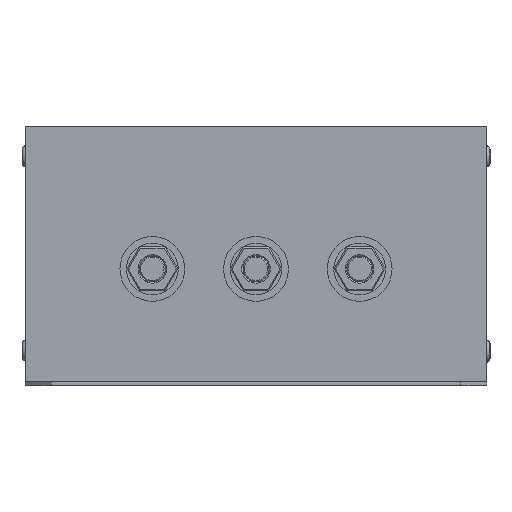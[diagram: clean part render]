
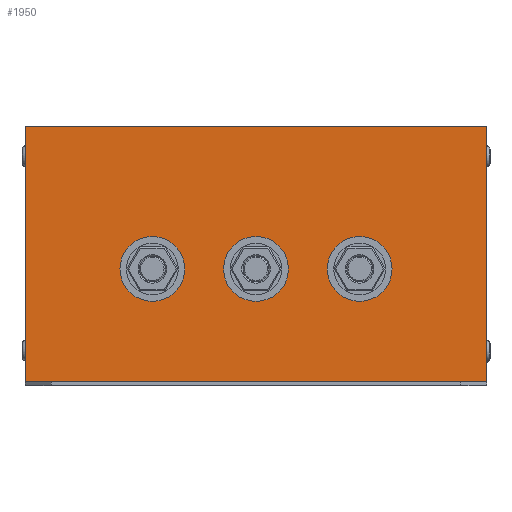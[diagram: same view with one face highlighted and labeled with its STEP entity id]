
A CAD part, left-side view. The second image highlights one B-rep face of the part: STEP entity #1950.
In plain terms, the highlighted planar face has unit normal (-1, 0, 0).
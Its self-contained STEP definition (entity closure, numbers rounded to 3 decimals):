
#1950=ADVANCED_FACE('',(#2462,#2464,#2466,#2468),#2470,.T.);
#2462=FACE_BOUND('',#2463,.T.);
#2463=EDGE_LOOP('',(#3111,#3112,#3113,#3114));
#2464=FACE_BOUND('',#2465,.T.);
#2465=EDGE_LOOP('',(#3115));
#2466=FACE_BOUND('',#2467,.T.);
#2467=EDGE_LOOP('',(#3116));
#2468=FACE_BOUND('',#2469,.T.);
#2469=EDGE_LOOP('',(#3117));
#2470=PLANE('',#2471);
#2471=AXIS2_PLACEMENT_3D('',#2472,#2473,#2474);
#2472=CARTESIAN_POINT('',(-177.5,75.5,1.5));
#2473=DIRECTION('',(-1.,0.,0.));
#2474=DIRECTION('',(0.,-1.,0.));
#3111=ORIENTED_EDGE('',*,*,#3377,.T.);
#3112=ORIENTED_EDGE('',*,*,#3337,.T.);
#3113=ORIENTED_EDGE('',*,*,#3334,.F.);
#3114=ORIENTED_EDGE('',*,*,#3330,.F.);
#3115=ORIENTED_EDGE('',*,*,#3388,.F.);
#3116=ORIENTED_EDGE('',*,*,#3389,.F.);
#3117=ORIENTED_EDGE('',*,*,#3390,.F.);
#3330=EDGE_CURVE('',#3519,#3521,#3522,.T.);
#3334=EDGE_CURVE('',#3521,#3525,#3527,.T.);
#3337=EDGE_CURVE('',#3532,#3525,#3533,.T.);
#3377=EDGE_CURVE('',#3519,#3532,#3598,.T.);
#3388=EDGE_CURVE('',#3618,#3618,#3619,.T.);
#3389=EDGE_CURVE('',#3620,#3620,#3621,.T.);
#3390=EDGE_CURVE('',#3622,#3622,#3623,.T.);
#3519=VERTEX_POINT('',#3863);
#3521=VERTEX_POINT('',#3867);
#3522=LINE('',#3868,#3869);
#3525=VERTEX_POINT('',#3877);
#3527=LINE('',#3881,#3882);
#3532=VERTEX_POINT('',#3892);
#3533=LINE('',#3893,#3894);
#3598=LINE('',#4049,#4050);
#3618=VERTEX_POINT('',#4095);
#3619=CIRCLE('',#4096,5.);
#3620=VERTEX_POINT('',#4100);
#3621=CIRCLE('',#4101,5.);
#3622=VERTEX_POINT('',#4105);
#3623=CIRCLE('',#4106,5.);
#3863=CARTESIAN_POINT('',(-177.5,75.5,1.5));
#3867=CARTESIAN_POINT('',(-177.5,75.5,100.));
#3868=CARTESIAN_POINT('',(-177.5,75.5,1.5));
#3869=VECTOR('',#3870,1.);
#3870=DIRECTION('',(0.,0.,1.));
#3877=CARTESIAN_POINT('',(-177.5,-102.5,100.));
#3881=CARTESIAN_POINT('',(-177.5,75.5,100.));
#3882=VECTOR('',#3883,1.);
#3883=DIRECTION('',(0.,-1.,0.));
#3892=CARTESIAN_POINT('',(-177.5,-102.5,1.5));
#3893=CARTESIAN_POINT('',(-177.5,-102.5,1.5));
#3894=VECTOR('',#3895,1.);
#3895=DIRECTION('',(0.,0.,1.));
#4049=CARTESIAN_POINT('',(-177.5,75.5,1.5));
#4050=VECTOR('',#4051,1.);
#4051=DIRECTION('',(0.,-1.,0.));
#4095=CARTESIAN_POINT('',(-177.5,-48.5,45.));
#4096=AXIS2_PLACEMENT_3D('',#4097,#4098,#4099);
#4097=CARTESIAN_POINT('',(-177.5,-53.5,45.));
#4098=DIRECTION('',(-1.,0.,0.));
#4099=DIRECTION('',(0.,1.,0.));
#4100=CARTESIAN_POINT('',(-177.5,31.5,45.));
#4101=AXIS2_PLACEMENT_3D('',#4102,#4103,#4104);
#4102=CARTESIAN_POINT('',(-177.5,26.5,45.));
#4103=DIRECTION('',(-1.,0.,0.));
#4104=DIRECTION('',(0.,1.,0.));
#4105=CARTESIAN_POINT('',(-177.5,-8.5,45.));
#4106=AXIS2_PLACEMENT_3D('',#4107,#4108,#4109);
#4107=CARTESIAN_POINT('',(-177.5,-13.5,45.));
#4108=DIRECTION('',(-1.,0.,0.));
#4109=DIRECTION('',(0.,1.,0.));
